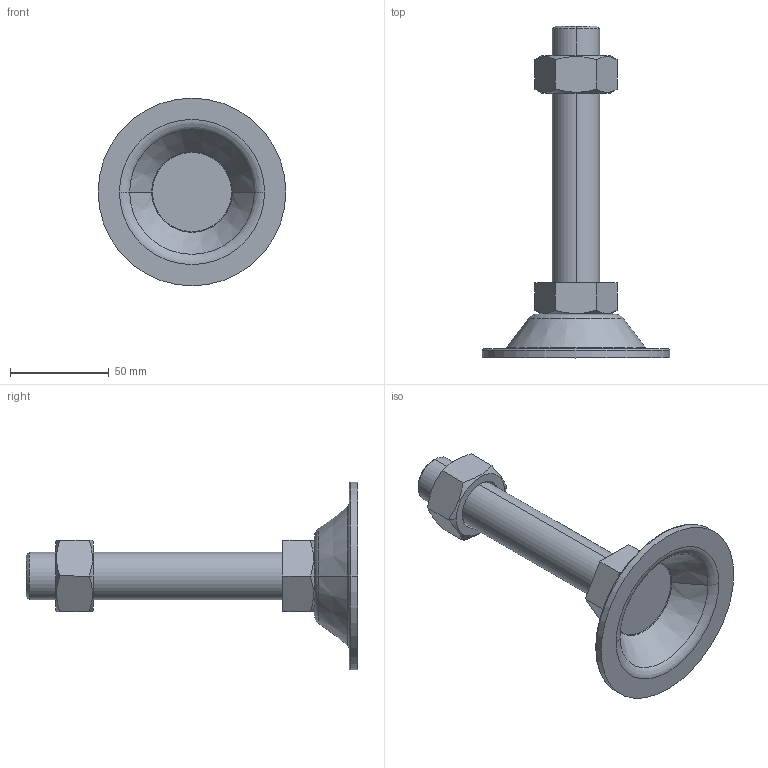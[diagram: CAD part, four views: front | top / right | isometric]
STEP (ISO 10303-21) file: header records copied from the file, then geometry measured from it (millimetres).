
FILE_DESCRIPTION (( 'STEP AP214' ), '1' );
FILE_NAME ('BL95-M24-130.step', '2021-01-06T05:42:11', ( '' ), ( '' ), 'SwSTEP 2.0', 'SolidWorks 2019', '' );
FILE_SCHEMA (( 'AUTOMOTIVE_DESIGN' ));
Length unit declared in the file: millimetre
Products named in the file (1): BL95-M24-130
Bounding box: 95 x 168 x 95 mm (x, y, z)
Volume: 127318.2 mm3; surface area: 37022.7 mm2
Topology: 3 solids, 3 shells, 53 faces, 110 edges, 66 vertices
Faces by surface type: plane 21, cone 16, torus 10, cylinder 6
Entity records: 1654 total; most frequent: CARTESIAN_POINT 464, DIRECTION 252, ORIENTED_EDGE 220, EDGE_CURVE 110, AXIS2_PLACEMENT_3D 106, VERTEX_POINT 66, EDGE_LOOP 58, ADVANCED_FACE 53
